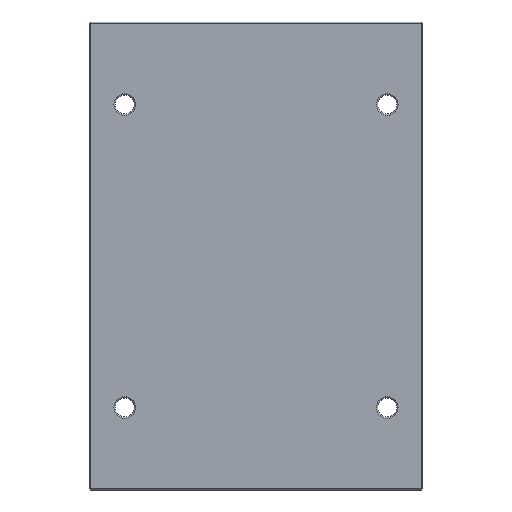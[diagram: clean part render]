
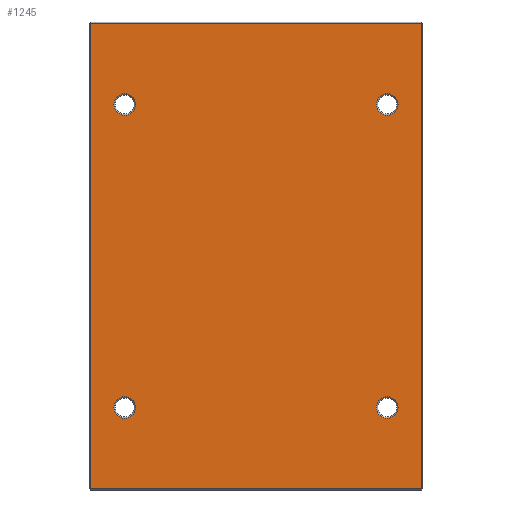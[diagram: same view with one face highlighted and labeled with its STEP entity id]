
A CAD part, front view. The second image highlights one B-rep face of the part: STEP entity #1245.
In plain terms, the highlighted planar face has unit normal (0, -1, 0).
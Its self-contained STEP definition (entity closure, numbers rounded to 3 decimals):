
#33 = CARTESIAN_POINT ( 'NONE',  ( -97., 0., 120. ) ) ;
#40 = AXIS2_PLACEMENT_3D ( 'NONE', #934, #1481, #569 ) ;
#63 = EDGE_CURVE ( 'NONE', #465, #1498, #1460, .T. ) ;
#101 = DIRECTION ( 'NONE',  ( 0., 0., 1. ) ) ;
#108 = ORIENTED_EDGE ( 'NONE', *, *, #983, .T. ) ;
#134 = CIRCLE ( 'NONE', #1028, 8. ) ;
#202 = DIRECTION ( 'NONE',  ( 0., 0., 1. ) ) ;
#204 = VERTEX_POINT ( 'NONE', #1152 ) ;
#205 = DIRECTION ( 'NONE',  ( 0., 1., 0. ) ) ;
#209 = CARTESIAN_POINT ( 'NONE',  ( -97., 0., -112. ) ) ;
#212 = FACE_BOUND ( 'NONE', #1001, .T. ) ;
#223 = EDGE_CURVE ( 'NONE', #204, #606, #974, .T. ) ;
#243 = CARTESIAN_POINT ( 'NONE',  ( 97., 0., 104. ) ) ;
#251 = EDGE_LOOP ( 'NONE', ( #108, #620 ) ) ;
#301 = CIRCLE ( 'NONE', #40, 8. ) ;
#304 = DIRECTION ( 'NONE',  ( -1., 0., 0. ) ) ;
#322 = LINE ( 'NONE', #973, #685 ) ;
#441 = AXIS2_PLACEMENT_3D ( 'NONE', #1220, #1235, #1242 ) ;
#442 = CIRCLE ( 'NONE', #1223, 8. ) ;
#455 = VECTOR ( 'NONE', #645, 1000. ) ;
#463 = CIRCLE ( 'NONE', #684, 8. ) ;
#465 = VERTEX_POINT ( 'NONE', #580 ) ;
#477 = VECTOR ( 'NONE', #1017, 1000. ) ;
#481 = EDGE_LOOP ( 'NONE', ( #1432, #501 ) ) ;
#488 = DIRECTION ( 'NONE',  ( 0., 0., 1. ) ) ;
#495 = CARTESIAN_POINT ( 'NONE',  ( 0., 0., 0. ) ) ;
#500 = FACE_OUTER_BOUND ( 'NONE', #832, .T. ) ;
#501 = ORIENTED_EDGE ( 'NONE', *, *, #1584, .T. ) ;
#502 = CIRCLE ( 'NONE', #914, 8. ) ;
#503 = PLANE ( 'NONE',  #518 ) ;
#507 = AXIS2_PLACEMENT_3D ( 'NONE', #1038, #1031, #1018 ) ;
#518 = AXIS2_PLACEMENT_3D ( 'NONE', #495, #523, #488 ) ;
#523 = DIRECTION ( 'NONE',  ( 0., 1., 0. ) ) ;
#569 = DIRECTION ( 'NONE',  ( 0., 0., 1. ) ) ;
#573 = DIRECTION ( 'NONE',  ( 0., 1., 0. ) ) ;
#580 = CARTESIAN_POINT ( 'NONE',  ( 122., 0., 172. ) ) ;
#582 = DIRECTION ( 'NONE',  ( 0., 0., 1. ) ) ;
#600 = DIRECTION ( 'NONE',  ( 0., 1., 0. ) ) ;
#606 = VERTEX_POINT ( 'NONE', #243 ) ;
#620 = ORIENTED_EDGE ( 'NONE', *, *, #223, .T. ) ;
#622 = ORIENTED_EDGE ( 'NONE', *, *, #1119, .T. ) ;
#645 = DIRECTION ( 'NONE',  ( 1., 0., 0. ) ) ;
#683 = CARTESIAN_POINT ( 'NONE',  ( -97., 0., 112. ) ) ;
#684 = AXIS2_PLACEMENT_3D ( 'NONE', #209, #205, #202 ) ;
#685 = VECTOR ( 'NONE', #904, 1000. ) ;
#708 = CARTESIAN_POINT ( 'NONE',  ( 0., 0., -172. ) ) ;
#716 = ORIENTED_EDGE ( 'NONE', *, *, #784, .T. ) ;
#741 = EDGE_CURVE ( 'NONE', #1215, #1661, #301, .T. ) ;
#784 = EDGE_CURVE ( 'NONE', #1661, #1215, #442, .T. ) ;
#815 = VERTEX_POINT ( 'NONE', #1179 ) ;
#832 = EDGE_LOOP ( 'NONE', ( #1145, #1390, #1371, #1411 ) ) ;
#844 = CARTESIAN_POINT ( 'NONE',  ( -97., 0., 104. ) ) ;
#874 = CIRCLE ( 'NONE', #1482, 8. ) ;
#904 = DIRECTION ( 'NONE',  ( 0., 0., -1. ) ) ;
#914 = AXIS2_PLACEMENT_3D ( 'NONE', #683, #600, #582 ) ;
#934 = CARTESIAN_POINT ( 'NONE',  ( 97., 0., -112. ) ) ;
#939 = CARTESIAN_POINT ( 'NONE',  ( 97., 0., 112. ) ) ;
#941 = EDGE_CURVE ( 'NONE', #1556, #1097, #1397, .T. ) ;
#945 = CIRCLE ( 'NONE', #441, 8. ) ;
#946 = DIRECTION ( 'NONE',  ( 0., 1., 0. ) ) ;
#951 = DIRECTION ( 'NONE',  ( 0., 0., 1. ) ) ;
#973 = CARTESIAN_POINT ( 'NONE',  ( -122., 0., 0. ) ) ;
#974 = CIRCLE ( 'NONE', #507, 8. ) ;
#983 = EDGE_CURVE ( 'NONE', #606, #204, #134, .T. ) ;
#995 = EDGE_CURVE ( 'NONE', #1498, #1556, #322, .T. ) ;
#1001 = EDGE_LOOP ( 'NONE', ( #716, #1602 ) ) ;
#1007 = CARTESIAN_POINT ( 'NONE',  ( 122., 0., 0. ) ) ;
#1017 = DIRECTION ( 'NONE',  ( 0., 0., 1. ) ) ;
#1018 = DIRECTION ( 'NONE',  ( 0., 0., 1. ) ) ;
#1028 = AXIS2_PLACEMENT_3D ( 'NONE', #939, #946, #951 ) ;
#1031 = DIRECTION ( 'NONE',  ( 0., 1., 0. ) ) ;
#1032 = EDGE_CURVE ( 'NONE', #1097, #465, #1041, .T. ) ;
#1038 = CARTESIAN_POINT ( 'NONE',  ( 97., 0., 112. ) ) ;
#1041 = LINE ( 'NONE', #1007, #477 ) ;
#1043 = CARTESIAN_POINT ( 'NONE',  ( -122., 0., -172. ) ) ;
#1097 = VERTEX_POINT ( 'NONE', #1467 ) ;
#1119 = EDGE_CURVE ( 'NONE', #1523, #815, #945, .T. ) ;
#1133 = EDGE_LOOP ( 'NONE', ( #622, #1209 ) ) ;
#1145 = ORIENTED_EDGE ( 'NONE', *, *, #1032, .T. ) ;
#1152 = CARTESIAN_POINT ( 'NONE',  ( 97., 0., 120. ) ) ;
#1157 = FACE_BOUND ( 'NONE', #1133, .T. ) ;
#1179 = CARTESIAN_POINT ( 'NONE',  ( -97., 0., -104. ) ) ;
#1207 = FACE_BOUND ( 'NONE', #251, .T. ) ;
#1209 = ORIENTED_EDGE ( 'NONE', *, *, #1269, .T. ) ;
#1215 = VERTEX_POINT ( 'NONE', #1366 ) ;
#1220 = CARTESIAN_POINT ( 'NONE',  ( -97., 0., -112. ) ) ;
#1223 = AXIS2_PLACEMENT_3D ( 'NONE', #1591, #573, #101 ) ;
#1235 = DIRECTION ( 'NONE',  ( 0., 1., 0. ) ) ;
#1242 = DIRECTION ( 'NONE',  ( 0., 0., 1. ) ) ;
#1245 = ADVANCED_FACE ( 'NONE', ( #212, #1207, #1533, #1157, #500 ), #503, .F. ) ;
#1269 = EDGE_CURVE ( 'NONE', #815, #1523, #463, .T. ) ;
#1285 = CARTESIAN_POINT ( 'NONE',  ( -97., 0., -120. ) ) ;
#1303 = CARTESIAN_POINT ( 'NONE',  ( -122., 0., 172. ) ) ;
#1307 = VERTEX_POINT ( 'NONE', #33 ) ;
#1308 = CARTESIAN_POINT ( 'NONE',  ( 97., 0., -120. ) ) ;
#1366 = CARTESIAN_POINT ( 'NONE',  ( 97., 0., -104. ) ) ;
#1371 = ORIENTED_EDGE ( 'NONE', *, *, #995, .T. ) ;
#1390 = ORIENTED_EDGE ( 'NONE', *, *, #63, .T. ) ;
#1397 = LINE ( 'NONE', #708, #455 ) ;
#1411 = ORIENTED_EDGE ( 'NONE', *, *, #941, .T. ) ;
#1432 = ORIENTED_EDGE ( 'NONE', *, *, #1503, .T. ) ;
#1442 = CARTESIAN_POINT ( 'NONE',  ( -97., 0., 112. ) ) ;
#1460 = LINE ( 'NONE', #1647, #1633 ) ;
#1467 = CARTESIAN_POINT ( 'NONE',  ( 122., 0., -172. ) ) ;
#1473 = DIRECTION ( 'NONE',  ( 0., 0., 1. ) ) ;
#1481 = DIRECTION ( 'NONE',  ( 0., 1., 0. ) ) ;
#1482 = AXIS2_PLACEMENT_3D ( 'NONE', #1442, #1507, #1473 ) ;
#1498 = VERTEX_POINT ( 'NONE', #1303 ) ;
#1503 = EDGE_CURVE ( 'NONE', #1571, #1307, #874, .T. ) ;
#1507 = DIRECTION ( 'NONE',  ( 0., 1., 0. ) ) ;
#1523 = VERTEX_POINT ( 'NONE', #1285 ) ;
#1533 = FACE_BOUND ( 'NONE', #481, .T. ) ;
#1556 = VERTEX_POINT ( 'NONE', #1043 ) ;
#1571 = VERTEX_POINT ( 'NONE', #844 ) ;
#1584 = EDGE_CURVE ( 'NONE', #1307, #1571, #502, .T. ) ;
#1591 = CARTESIAN_POINT ( 'NONE',  ( 97., 0., -112. ) ) ;
#1602 = ORIENTED_EDGE ( 'NONE', *, *, #741, .T. ) ;
#1633 = VECTOR ( 'NONE', #304, 1000. ) ;
#1647 = CARTESIAN_POINT ( 'NONE',  ( 0., 0., 172. ) ) ;
#1661 = VERTEX_POINT ( 'NONE', #1308 ) ;
